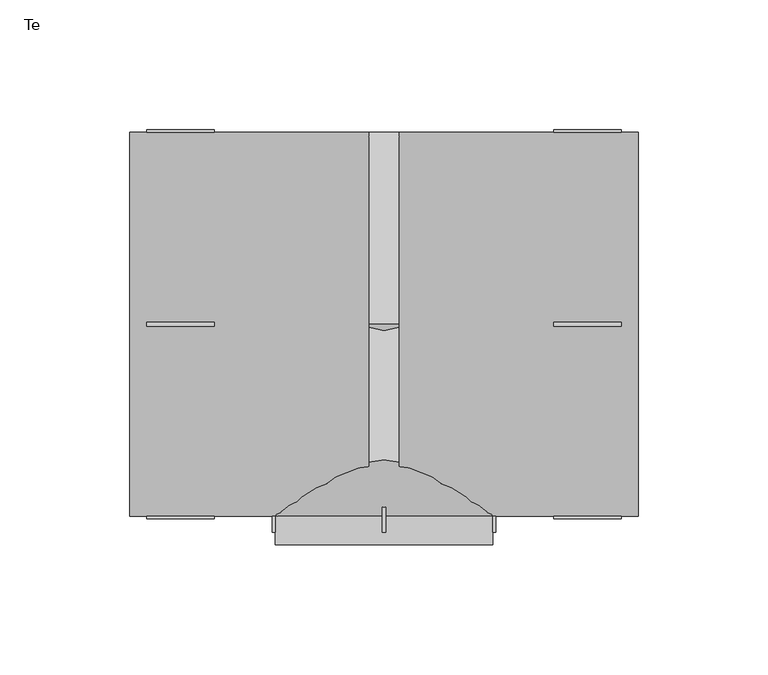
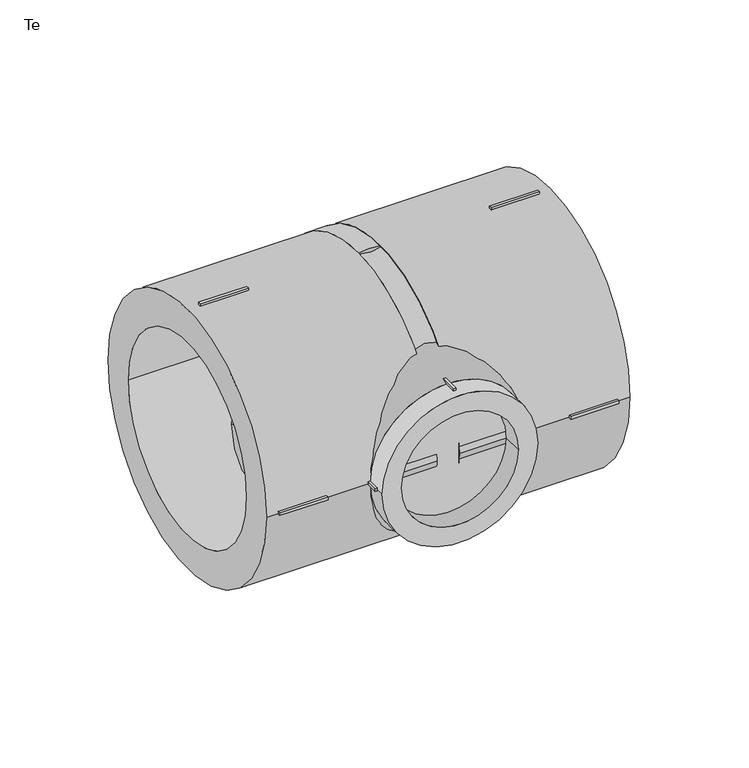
"""IFC4 building model written with IfcOpenShell, lengths in millimetres: pipe fitting geometry, EGB_VASEN_ PPR_Te WXR300_Te reducida WXR310 : Te."""

from ifc_helpers import new_model, si_unit, point, frame, origin, origin_2d, place, context, project, spatial, polyline, circle_curve, trimmed, segment, composite_curve, outline, extrude, source, transform, mapped, element, save
from ifc_brep_helpers import plane_surface, revolved_surface, advanced_brep


def te_8c2a125f(model_context):
    return source(origin(), model_context, "Body", "SolidModel", [
        extrude(outline(polyline([(-0.75, -61.0), (0.75, -61.0), (0.75, -80.2), (-0.75, -80.2), (-0.75, -61.0)])), frame((0.0, 0.0, 41.0), z_axis=(0.0, 0.0, 1.0), x_axis=(1.0, 0.0, 0.0)), (0.0, 0.0, 1.0), 2.0),
        extrude(outline(polyline([(-0.75, -61.0), (0.75, -61.0), (0.75, -80.2), (-0.75, -80.2), (-0.75, -61.0)])), frame((0.0, 0.0, -43.0), z_axis=(0.0, 0.0, 1.0), x_axis=(1.0, 0.0, 0.0)), (0.0, 0.0, 1.0), 2.0),
        extrude(outline(polyline([(41.0, -61.0), (43.0, -61.0), (43.0, -80.2), (41.0, -80.2), (41.0, -61.0)])), frame((0.0, 0.0, -0.75), z_axis=(0.0, 0.0, 1.0), x_axis=(1.0, 0.0, 0.0)), (0.0, 0.0, 1.0), 1.5),
        extrude(outline(polyline([(-43.0, -61.0), (-41.0, -61.0), (-41.0, -80.2), (-43.0, -80.2), (-43.0, -61.0)])), frame((0.0, 0.0, -0.75), z_axis=(0.0, 0.0, 1.0), x_axis=(1.0, 0.0, 0.0)), (0.0, 0.0, 1.0), 1.5),
        extrude(outline(polyline([(65.5, -0.75), (65.5, 0.75), (91.5, 0.75), (91.5, -0.75), (65.5, -0.75)])), frame((0.0, 0.0, 73.0), z_axis=(0.0, 0.0, 1.0), x_axis=(1.0, 0.0, 0.0)), (0.0, 0.0, 1.0), 2.0),
        extrude(outline(polyline([(65.5, -0.75), (65.5, 0.75), (91.5, 0.75), (91.5, -0.75), (65.5, -0.75)])), frame((0.0, 0.0, -75.0), z_axis=(0.0, 0.0, 1.0), x_axis=(1.0, 0.0, 0.0)), (0.0, 0.0, 1.0), 2.0),
        extrude(outline(polyline([(65.5, 73.0), (65.5, 75.0), (91.5, 75.0), (91.5, 73.0), (65.5, 73.0)])), frame((0.0, 0.0, -0.75), z_axis=(0.0, 0.0, 1.0), x_axis=(1.0, 0.0, 0.0)), (0.0, 0.0, 1.0), 1.5),
        extrude(outline(polyline([(65.5, -75.0), (65.5, -73.0), (91.5, -73.0), (91.5, -75.0), (65.5, -75.0)])), frame((0.0, 0.0, -0.75), z_axis=(0.0, 0.0, 1.0), x_axis=(1.0, 0.0, 0.0)), (0.0, 0.0, 1.0), 1.5),
        extrude(outline(polyline([(-65.5, 0.75), (-65.5, -0.75), (-91.5, -0.75), (-91.5, 0.75), (-65.5, 0.75)])), frame((0.0, 0.0, 73.0), z_axis=(0.0, 0.0, 1.0), x_axis=(1.0, 0.0, 0.0)), (0.0, 0.0, 1.0), 2.0),
        extrude(outline(polyline([(-65.5, 0.75), (-65.5, -0.75), (-91.5, -0.75), (-91.5, 0.75), (-65.5, 0.75)])), frame((0.0, 0.0, -75.0), z_axis=(0.0, 0.0, 1.0), x_axis=(1.0, 0.0, 0.0)), (0.0, 0.0, 1.0), 2.0),
        extrude(outline(polyline([(-65.5, 75.0), (-65.5, 73.0), (-91.5, 73.0), (-91.5, 75.0), (-65.5, 75.0)])), frame((0.0, 0.0, -0.75), z_axis=(0.0, 0.0, 1.0), x_axis=(1.0, 0.0, 0.0)), (0.0, 0.0, 1.0), 1.5),
        extrude(outline(polyline([(-65.5, -73.0), (-65.5, -75.0), (-91.5, -75.0), (-91.5, -73.0), (-65.5, -73.0)])), frame((0.0, 0.0, -0.75), z_axis=(0.0, 0.0, 1.0), x_axis=(1.0, 0.0, 0.0)), (0.0, 0.0, 1.0), 1.5),
        extrude(outline(composite_curve([segment(trimmed(circle_curve(origin_2d(), 42.0), [point((0.0, 42.0))], [point((0.0, -42.0))], False, "CARTESIAN"), True, "CONTINUOUS"), segment(trimmed(circle_curve(origin_2d(), 42.0), [point((0.0, -42.0))], [point((0.0, 42.0))], False, "CARTESIAN"), True, "CONTINUOUS")], self_intersect=False), holes=[composite_curve([segment(trimmed(circle_curve(origin_2d(), 31.5), [point((0.0, 31.5))], [point((0.0, -31.5))], True, "CARTESIAN"), True, "CONTINUOUS"), segment(trimmed(circle_curve(origin_2d(), 31.5), [point((0.0, -31.5))], [point((0.0, 31.5))], True, "CARTESIAN"), True, "CONTINUOUS")], self_intersect=False)]), frame((0.0, -85.0, 0.0), z_axis=(0.0, 1.0, 0.0), x_axis=(0.0, 0.0, 1.0)), (0.0, 0.0, 1.0), 11.0),
        extrude(outline(composite_curve([segment(trimmed(circle_curve(origin_2d(), 74.0), [point((-74.0, 0.0))], [point((74.0, 0.0))], False, "CARTESIAN"), True, "CONTINUOUS"), segment(trimmed(circle_curve(origin_2d(), 74.0), [point((74.0, 0.0))], [point((-74.0, 0.0))], False, "CARTESIAN"), True, "CONTINUOUS")], self_intersect=False), holes=[composite_curve([segment(trimmed(circle_curve(origin_2d(), 55.0), [point((-55.0, 0.0))], [point((55.0, 0.0))], True, "CARTESIAN"), True, "CONTINUOUS"), segment(trimmed(circle_curve(origin_2d(), 55.0), [point((55.0, 0.0))], [point((-55.0, 0.0))], True, "CARTESIAN"), True, "CONTINUOUS")], self_intersect=False)]), frame((5.96, 0.0, 0.0), z_axis=(1.0, 0.0, 0.0), x_axis=(0.0, 1.0, 0.0)), (0.0, 0.0, 1.0), 92.04),
        extrude(outline(composite_curve([segment(trimmed(circle_curve(origin_2d(), 74.0), [point((-74.0, 0.0))], [point((74.0, 0.0))], False, "CARTESIAN"), True, "CONTINUOUS"), segment(trimmed(circle_curve(origin_2d(), 74.0), [point((74.0, 0.0))], [point((-74.0, 0.0))], False, "CARTESIAN"), True, "CONTINUOUS")], self_intersect=False), holes=[composite_curve([segment(trimmed(circle_curve(origin_2d(), 55.0), [point((-55.0, 0.0))], [point((55.0, 0.0))], True, "CARTESIAN"), True, "CONTINUOUS"), segment(trimmed(circle_curve(origin_2d(), 55.0), [point((55.0, 0.0))], [point((-55.0, 0.0))], True, "CARTESIAN"), True, "CONTINUOUS")], self_intersect=False)]), frame((-98.0, 0.0, 0.0), z_axis=(1.0, 0.0, 0.0), x_axis=(0.0, 1.0, 0.0)), (0.0, 0.0, 1.0), 92.04),
        advanced_brep(
        [(74.0, 0.0, 0.0), (-74.0, 0.0, 0.0), (42.0, -74.0, 0.0), (-42.0, -74.0, 0.0)],
        [
            (0, 1, circle_curve(frame((0.0, 0.0, 0.0), z_axis=(0.0, 1.0, 0.0), x_axis=(1.0, 0.0, 0.0)), 74.0)),
            (1, 0, circle_curve(frame((0.0, 0.0, 0.0), z_axis=(0.0, 1.0, 0.0), x_axis=(-1.0, 0.0, 0.0)), 74.0)),
            (2, 3, circle_curve(frame((0.0, -74.0, 0.0), z_axis=(0.0, -1.0, 0.0), x_axis=(-1.0, 0.0, 0.0)), 42.0)),
            (3, 2, circle_curve(frame((0.0, -74.0, 0.0), z_axis=(0.0, -1.0, 0.0), x_axis=(1.0, 0.0, 0.0)), 42.0)),
            (3, 1),
            (0, 2),
        ],
        [
            plane_surface(frame((0.0, 0.0, 0.0), z_axis=(0.0, 1.0, 0.0), x_axis=(0.0, 0.0, -1.0))),
            plane_surface(frame((0.0, -74.0, 0.0), z_axis=(0.0, -1.0, 0.0), x_axis=(0.0, 0.0, -1.0))),
            revolved_surface(polyline([(-42.0, -74.0, 0.0), (-74.0, 0.0, 0.0)]), (0.0, -171.125, 0.0), (0.0, 1.0, 0.0)),
            revolved_surface(polyline([(42.0, -74.0, 0.0), (74.0, 0.0, 0.0)]), (0.0, -171.125, 0.0), (0.0, 1.0, 0.0)),
        ],
        [
            (0, [[1, 2]]),
            (1, [[3, 4]]),
            (2, [[-4, 5, -1, 6]]),
            (3, [[-3, -6, -2, -5]]),
        ],
    ),
        extrude(outline(composite_curve([segment(trimmed(circle_curve(origin_2d(), 74.0), [point((-74.0, 0.0))], [point((74.0, 0.0))], False, "CARTESIAN"), True, "CONTINUOUS"), segment(trimmed(circle_curve(origin_2d(), 74.0), [point((74.0, 0.0))], [point((-74.0, 0.0))], False, "CARTESIAN"), True, "CONTINUOUS")], self_intersect=False)), frame((-5.96, 0.0, 0.0), z_axis=(1.0, 0.0, 0.0), x_axis=(0.0, 1.0, 0.0)), (0.0, 0.0, 1.0), 11.92),
    ])


if __name__ == "__main__":
    model = new_model("IFC4")
    model_context = context("Model", 3, world=origin())
    ifc_project = project(units=[si_unit("LENGTHUNIT", "METRE", prefix="MILLI")], contexts=[model_context])
    site = spatial("IfcSite", under=ifc_project)
    building = spatial("IfcBuilding", under=site)
    placement = place(None, origin())
    te_shape = te_8c2a125f(model_context)
    element("IfcPipeFitting", 1, ObjectType="EGB_VASEN_ PPR_Te WXR300_Te reducida WXR310 : Te", at=placement, inside=building, context=model_context, shape_type="MappedRepresentation", body=[
        mapped(te_shape, transform((0.0, 0.0, 0.0), x_axis=(1.0, 0.0, 0.0), y_axis=(0.0, 1.0, 0.0), z_axis=(0.0, 0.0, 1.0))),
    ])
    save(model, "model.ifc")
